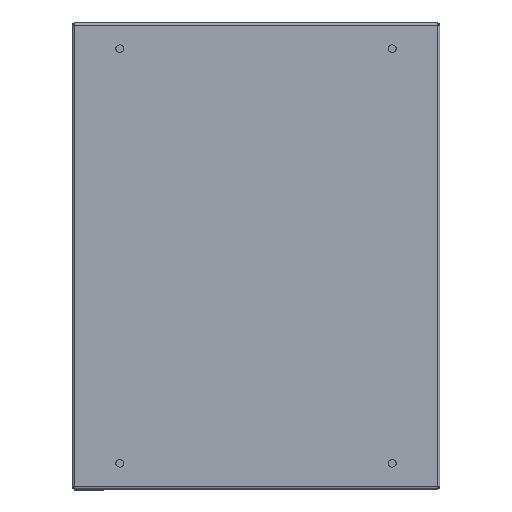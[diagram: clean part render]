
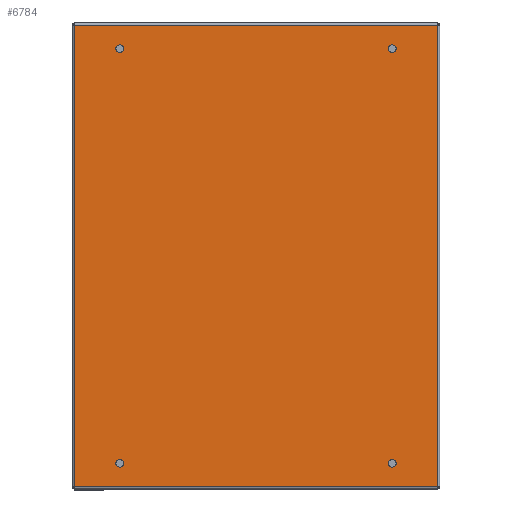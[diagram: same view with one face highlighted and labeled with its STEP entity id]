
A CAD part, front view. The second image highlights one B-rep face of the part: STEP entity #6784.
In plain terms, the highlighted planar face has unit normal (0, -1, 0).
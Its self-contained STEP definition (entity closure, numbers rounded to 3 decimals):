
#34 = CARTESIAN_POINT ( 'NONE',  ( -111.75, 0., 175. ) ) ;
#72 = DIRECTION ( 'NONE',  ( 0., 1., 0. ) ) ;
#74 = LINE ( 'NONE', #7342, #2956 ) ;
#110 = DIRECTION ( 'NONE',  ( 0., 1., 0. ) ) ;
#177 = DIRECTION ( 'NONE',  ( 1., 0., 0. ) ) ;
#268 = DIRECTION ( 'NONE',  ( 0., 0., 1. ) ) ;
#392 = DIRECTION ( 'NONE',  ( -1., 0., 0. ) ) ;
#421 = ORIENTED_EDGE ( 'NONE', *, *, #3233, .T. ) ;
#426 = CARTESIAN_POINT ( 'NONE',  ( -153., 0., -196.7 ) ) ;
#487 = FACE_BOUND ( 'NONE', #10886, .T. ) ;
#747 = CARTESIAN_POINT ( 'NONE',  ( -153., 0., -194.7 ) ) ;
#789 = AXIS2_PLACEMENT_3D ( 'NONE', #7096, #2207, #2093 ) ;
#799 = EDGE_CURVE ( 'NONE', #6155, #7090, #1539, .T. ) ;
#903 = AXIS2_PLACEMENT_3D ( 'NONE', #3562, #110, #10351 ) ;
#923 = ORIENTED_EDGE ( 'NONE', *, *, #799, .T. ) ;
#1154 = CIRCLE ( 'NONE', #6786, 3.25 ) ;
#1161 = PLANE ( 'NONE',  #2770 ) ;
#1310 = DIRECTION ( 'NONE',  ( 1., 0., 0. ) ) ;
#1365 = CARTESIAN_POINT ( 'NONE',  ( -118.25, 0., 175. ) ) ;
#1503 = DIRECTION ( 'NONE',  ( 1., 0., 0. ) ) ;
#1539 = CIRCLE ( 'NONE', #789, 3.25 ) ;
#1577 = ORIENTED_EDGE ( 'NONE', *, *, #9582, .T. ) ;
#1727 = EDGE_CURVE ( 'NONE', #4433, #5109, #74, .T. ) ;
#1871 = CARTESIAN_POINT ( 'NONE',  ( 153., 0., -194.7 ) ) ;
#1941 = ORIENTED_EDGE ( 'NONE', *, *, #4838, .T. ) ;
#2093 = DIRECTION ( 'NONE',  ( 1., 0., 0. ) ) ;
#2207 = DIRECTION ( 'NONE',  ( 0., 1., 0. ) ) ;
#2455 = AXIS2_PLACEMENT_3D ( 'NONE', #7505, #72, #10946 ) ;
#2570 = CARTESIAN_POINT ( 'NONE',  ( 111.75, 0., -175. ) ) ;
#2762 = EDGE_LOOP ( 'NONE', ( #1941, #10591 ) ) ;
#2770 = AXIS2_PLACEMENT_3D ( 'NONE', #426, #9678, #2899 ) ;
#2867 = FACE_BOUND ( 'NONE', #2762, .T. ) ;
#2899 = DIRECTION ( 'NONE',  ( -1., 0., 0. ) ) ;
#2956 = VECTOR ( 'NONE', #1503, 1000. ) ;
#3005 = LINE ( 'NONE', #1871, #4985 ) ;
#3006 = AXIS2_PLACEMENT_3D ( 'NONE', #3599, #8614, #177 ) ;
#3206 = DIRECTION ( 'NONE',  ( 0., 1., 0. ) ) ;
#3233 = EDGE_CURVE ( 'NONE', #7477, #6359, #10933, .T. ) ;
#3299 = CARTESIAN_POINT ( 'NONE',  ( 118.25, 0., 175. ) ) ;
#3384 = CIRCLE ( 'NONE', #3006, 3.25 ) ;
#3399 = EDGE_LOOP ( 'NONE', ( #5982, #4472 ) ) ;
#3562 = CARTESIAN_POINT ( 'NONE',  ( -115., 0., -175. ) ) ;
#3599 = CARTESIAN_POINT ( 'NONE',  ( -115., 0., 175. ) ) ;
#3647 = LINE ( 'NONE', #3704, #8945 ) ;
#3704 = CARTESIAN_POINT ( 'NONE',  ( 153., 0., 194.7 ) ) ;
#3842 = CARTESIAN_POINT ( 'NONE',  ( -153., 0., -194.7 ) ) ;
#4004 = AXIS2_PLACEMENT_3D ( 'NONE', #9259, #4173, #10131 ) ;
#4121 = ORIENTED_EDGE ( 'NONE', *, *, #5493, .T. ) ;
#4173 = DIRECTION ( 'NONE',  ( 0., 1., 0. ) ) ;
#4300 = CIRCLE ( 'NONE', #2455, 3.25 ) ;
#4433 = VERTEX_POINT ( 'NONE', #3842 ) ;
#4472 = ORIENTED_EDGE ( 'NONE', *, *, #6054, .T. ) ;
#4659 = CARTESIAN_POINT ( 'NONE',  ( -115., 0., 175. ) ) ;
#4668 = AXIS2_PLACEMENT_3D ( 'NONE', #4659, #7126, #1310 ) ;
#4696 = FACE_OUTER_BOUND ( 'NONE', #9231, .T. ) ;
#4838 = EDGE_CURVE ( 'NONE', #9740, #7051, #9324, .T. ) ;
#4985 = VECTOR ( 'NONE', #268, 1000. ) ;
#4991 = CARTESIAN_POINT ( 'NONE',  ( -111.75, 0., -175. ) ) ;
#5013 = DIRECTION ( 'NONE',  ( 0., 0., 1. ) ) ;
#5109 = VERTEX_POINT ( 'NONE', #9172 ) ;
#5149 = VERTEX_POINT ( 'NONE', #6611 ) ;
#5241 = FACE_BOUND ( 'NONE', #3399, .T. ) ;
#5445 = CARTESIAN_POINT ( 'NONE',  ( 118.25, 0., -175. ) ) ;
#5493 = EDGE_CURVE ( 'NONE', #7090, #6155, #7677, .T. ) ;
#5531 = VERTEX_POINT ( 'NONE', #2570 ) ;
#5760 = ORIENTED_EDGE ( 'NONE', *, *, #10265, .T. ) ;
#5982 = ORIENTED_EDGE ( 'NONE', *, *, #10161, .T. ) ;
#6054 = EDGE_CURVE ( 'NONE', #6753, #5531, #6992, .T. ) ;
#6155 = VERTEX_POINT ( 'NONE', #8117 ) ;
#6171 = FACE_BOUND ( 'NONE', #8188, .T. ) ;
#6359 = VERTEX_POINT ( 'NONE', #34 ) ;
#6416 = DIRECTION ( 'NONE',  ( -1., 0., 0. ) ) ;
#6568 = VECTOR ( 'NONE', #5013, 1000. ) ;
#6583 = EDGE_CURVE ( 'NONE', #7051, #9740, #1154, .T. ) ;
#6611 = CARTESIAN_POINT ( 'NONE',  ( -153., 0., 194.7 ) ) ;
#6753 = VERTEX_POINT ( 'NONE', #5445 ) ;
#6784 = ADVANCED_FACE ( 'NONE', ( #4696, #6171, #487, #2867, #5241 ), #1161, .T. ) ;
#6786 = AXIS2_PLACEMENT_3D ( 'NONE', #10025, #3206, #9911 ) ;
#6802 = EDGE_CURVE ( 'NONE', #7886, #5149, #3647, .T. ) ;
#6895 = ORIENTED_EDGE ( 'NONE', *, *, #6802, .T. ) ;
#6992 = CIRCLE ( 'NONE', #7986, 3.25 ) ;
#7051 = VERTEX_POINT ( 'NONE', #3299 ) ;
#7090 = VERTEX_POINT ( 'NONE', #4991 ) ;
#7096 = CARTESIAN_POINT ( 'NONE',  ( -115., 0., -175. ) ) ;
#7126 = DIRECTION ( 'NONE',  ( 0., 1., 0. ) ) ;
#7131 = DIRECTION ( 'NONE',  ( 0., 1., 0. ) ) ;
#7209 = CARTESIAN_POINT ( 'NONE',  ( 115., 0., -175. ) ) ;
#7342 = CARTESIAN_POINT ( 'NONE',  ( -153., 0., -194.7 ) ) ;
#7366 = ORIENTED_EDGE ( 'NONE', *, *, #1727, .T. ) ;
#7477 = VERTEX_POINT ( 'NONE', #1365 ) ;
#7505 = CARTESIAN_POINT ( 'NONE',  ( 115., 0., -175. ) ) ;
#7677 = CIRCLE ( 'NONE', #903, 3.25 ) ;
#7886 = VERTEX_POINT ( 'NONE', #9332 ) ;
#7986 = AXIS2_PLACEMENT_3D ( 'NONE', #7209, #7131, #6416 ) ;
#8117 = CARTESIAN_POINT ( 'NONE',  ( -118.25, 0., -175. ) ) ;
#8188 = EDGE_LOOP ( 'NONE', ( #4121, #923 ) ) ;
#8224 = ORIENTED_EDGE ( 'NONE', *, *, #9852, .F. ) ;
#8614 = DIRECTION ( 'NONE',  ( 0., 1., 0. ) ) ;
#8945 = VECTOR ( 'NONE', #392, 1000. ) ;
#9172 = CARTESIAN_POINT ( 'NONE',  ( 153., 0., -194.7 ) ) ;
#9231 = EDGE_LOOP ( 'NONE', ( #7366, #1577, #6895, #8224 ) ) ;
#9259 = CARTESIAN_POINT ( 'NONE',  ( 115., 0., 175. ) ) ;
#9324 = CIRCLE ( 'NONE', #4004, 3.25 ) ;
#9332 = CARTESIAN_POINT ( 'NONE',  ( 153., 0., 194.7 ) ) ;
#9582 = EDGE_CURVE ( 'NONE', #5109, #7886, #3005, .T. ) ;
#9678 = DIRECTION ( 'NONE',  ( 0., -1., 0. ) ) ;
#9740 = VERTEX_POINT ( 'NONE', #10543 ) ;
#9852 = EDGE_CURVE ( 'NONE', #4433, #5149, #10035, .T. ) ;
#9911 = DIRECTION ( 'NONE',  ( -1., 0., 0. ) ) ;
#10025 = CARTESIAN_POINT ( 'NONE',  ( 115., 0., 175. ) ) ;
#10035 = LINE ( 'NONE', #747, #6568 ) ;
#10131 = DIRECTION ( 'NONE',  ( -1., 0., 0. ) ) ;
#10161 = EDGE_CURVE ( 'NONE', #5531, #6753, #4300, .T. ) ;
#10265 = EDGE_CURVE ( 'NONE', #6359, #7477, #3384, .T. ) ;
#10351 = DIRECTION ( 'NONE',  ( 1., 0., 0. ) ) ;
#10543 = CARTESIAN_POINT ( 'NONE',  ( 111.75, 0., 175. ) ) ;
#10591 = ORIENTED_EDGE ( 'NONE', *, *, #6583, .T. ) ;
#10886 = EDGE_LOOP ( 'NONE', ( #5760, #421 ) ) ;
#10933 = CIRCLE ( 'NONE', #4668, 3.25 ) ;
#10946 = DIRECTION ( 'NONE',  ( -1., 0., 0. ) ) ;
